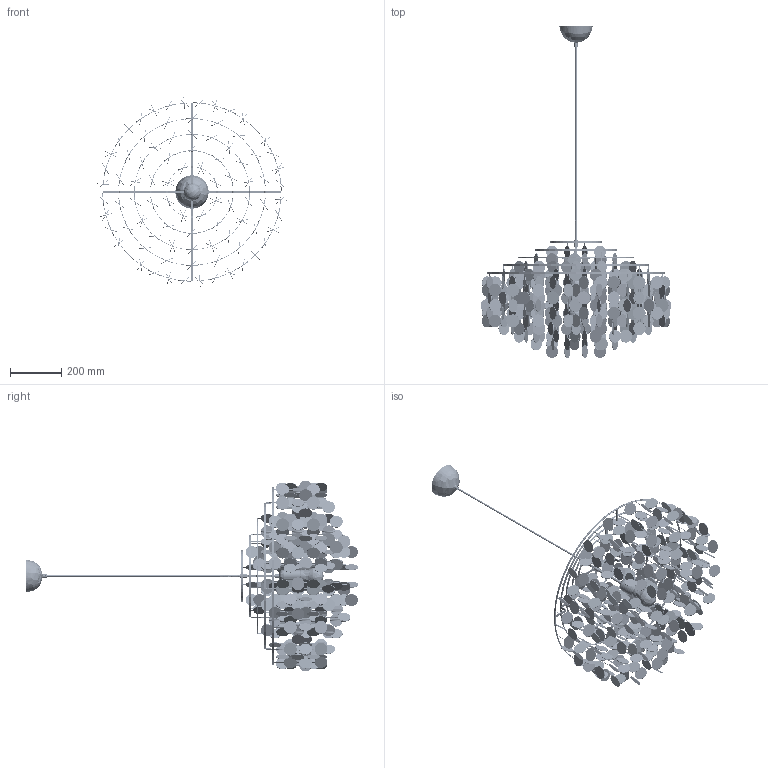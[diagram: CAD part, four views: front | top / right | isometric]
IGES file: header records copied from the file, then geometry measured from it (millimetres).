
Start section: SolidWorks IGES file using analytic representation for surfaces
Global section: file name: C:\Users\Chiina\Desktop\Chiina\Dokumendid\Frandsen Project\VerPan\FUN 7DM\FUN11DM Pendel.IGS; native system: SolidWorks 2013; preprocessor: SolidWorks 2013; author: Chiina; date: 130107.224933; units: millimetre
Bounding box: 747.32 x 1300.3 x 747.32 mm (x, y, z)
Surface area: 1969117.4 mm2 (no closed solid volume)
Topology: 0 solids, 0 shells, 3060 faces, 79803 edges, 79791 vertices
Faces by surface type: revolution 1944, bspline 1116
